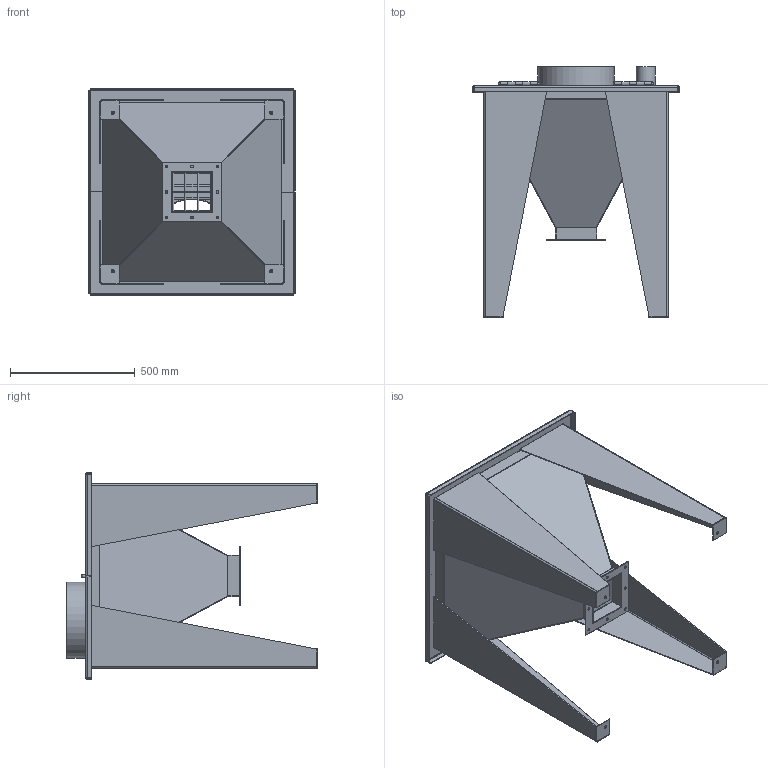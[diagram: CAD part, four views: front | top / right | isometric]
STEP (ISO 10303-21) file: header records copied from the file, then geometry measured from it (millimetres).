
FILE_DESCRIPTION(/* description */ (''),/* implementation_level */ '2;1');
FILE_NAME(/* name */ 'Z:\CUSTOMER ORDERS\K\K-Malt\Industrial Arts Brewing\Inventor Files - Rev B\Bag Break 100-BB.stp',/* time_stamp */ '2021-07-15T14:08:48-05:00',/* author */ ('rwest'),/* organization */ (''),/* preprocessor_version */ 'ST-DEVELOPER v17',/* originating_system */ 'Autodesk Inventor 2019',/* authorisation */ '');
FILE_SCHEMA (('AUTOMOTIVE_DESIGN { 1 0 10303 214 3 1 1 }'));
Length unit declared in the file: inch
Products named in the file (20): Bag Break 100-BB; Bag Break Hopper; Hopper 01; Hopper 02; Hopper 03; Hopper 04; Hopper 05; Hopper 06; Hopper 07; Hopper 08; Bag Break Lid; Lid 01; Lid 02; Lid 03; Lid 04; Lid 05; Lid 06; Lid 07; Grate; Grate 01
Assembly tree (66 placements, depth 3):
  Bag Break 100-BB
    Bag Break Hopper
      Hopper 01  x4
      Hopper 02  x4
      Hopper 03
      Hopper 04  x4
      Hopper 05  x4
      Hopper 06  x4
      Hopper 07
      Hopper 08  x3
    Bag Break Lid
      Lid 01
      Lid 02
      Lid 03
      Lid 04
      Lid 05  x2
      Lid 06  x2
      Lid 07  x2
    Grate
      Grate 01  x28
Bounding box: 827.25 x 1004.02 x 827.25 mm (x, y, z)
Volume: 12232177.8 mm3; surface area: 7374929.1 mm2
Topology: 63 solids, 63 shells, 415 faces, 847 edges, 542 vertices
Faces by surface type: plane 316, cylinder 95, sphere 4
Full cylindrical faces by diameter (mm): 6.35 x31, 10 x8, 12 x2, 12.7 x4, 69.367 x1, 76.2 x2, 297.967 x1, 304.8 x2
Entity records: 6011 total; most frequent: DIRECTION 1008, CARTESIAN_POINT 914, ORIENTED_EDGE 804, EDGE_CURVE 402, AXIS2_PLACEMENT_3D 348, LINE 312, VECTOR 312, VERTEX_POINT 254
